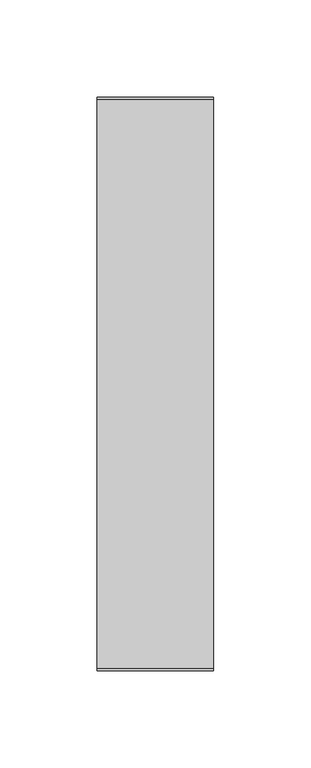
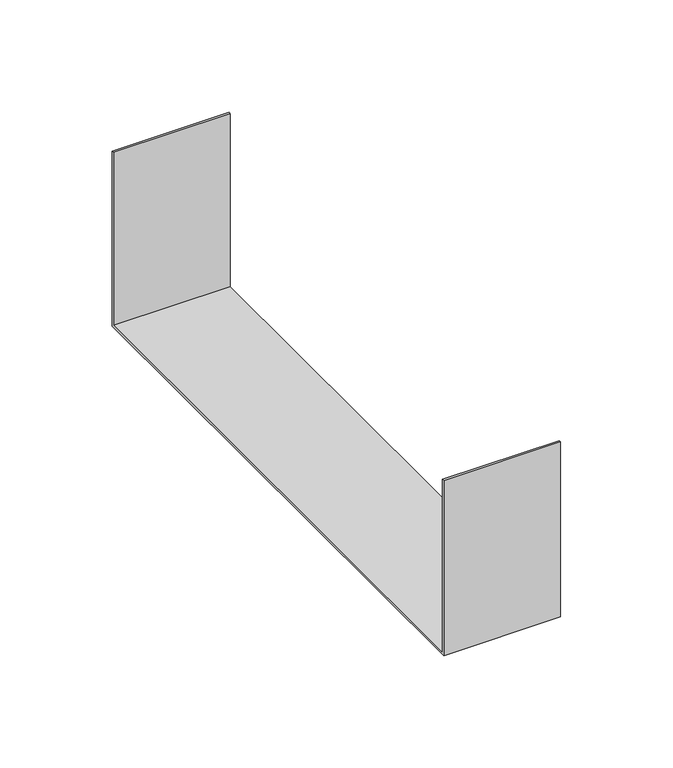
"""IFC4 building model written with IfcOpenShell, lengths in millimetres: cable carrier fitting geometry, JUCT_Juction-Basorcanal : Basorcanal JUCT H100."""

from ifc_helpers import new_model, si_unit, frame, origin, place, context, project, spatial, polyline, outline, extrude, source, transform, mapped, element, save


def cable_carrier_fitting_345d411a(model_context):
    return source(origin(), model_context, "Body", "SweptSolid", [
        extrude(outline(polyline([(-147.5, -47.5), (-147.5, 47.5), (-146.5, 47.5), (-146.5, -46.5), (146.5, -46.5), (146.5, 47.5), (147.5, 47.5), (147.5, -47.5), (-147.5, -47.5)])), frame((0.0, 0.0, 0.0), z_axis=(1.0, 0.0, 0.0), x_axis=(0.0, 1.0, 0.0)), (0.0, 0.0, 1.0), 60.0),
    ])


if __name__ == "__main__":
    model = new_model("IFC4")
    model_context = context("Model", 3, world=origin())
    ifc_project = project(units=[si_unit("LENGTHUNIT", "METRE", prefix="MILLI")], contexts=[model_context])
    site = spatial("IfcSite", under=ifc_project)
    building = spatial("IfcBuilding", under=site)
    placement = place(None, origin())
    cable_carrier_fitting_shape = cable_carrier_fitting_345d411a(model_context)
    element("IfcCableCarrierFitting", 1, ObjectType="JUCT_Juction-Basorcanal : Basorcanal JUCT H100", at=placement, inside=building, context=model_context, shape_type="MappedRepresentation", body=[
        mapped(cable_carrier_fitting_shape, transform((0.0, 0.0, 0.0), x_axis=(1.0, 0.0, 0.0), y_axis=(0.0, 1.0, 0.0), z_axis=(0.0, 0.0, 1.0))),
    ])
    save(model, "model.ifc")
